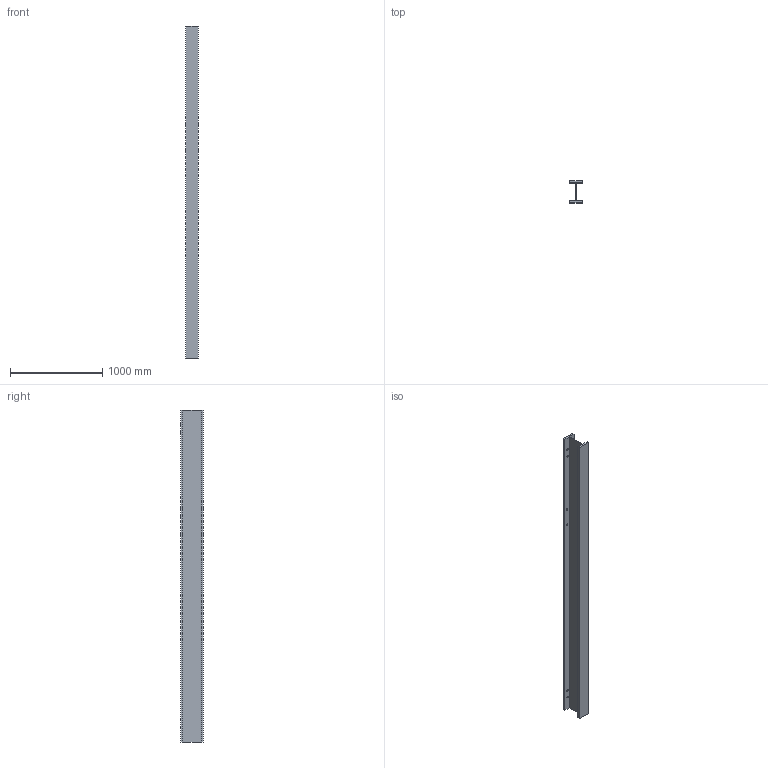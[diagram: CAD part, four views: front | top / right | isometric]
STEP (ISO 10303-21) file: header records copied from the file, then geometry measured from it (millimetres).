
FILE_DESCRIPTION(('Open CASCADE Model'),'2;1');
FILE_NAME('Open CASCADE Shape Model','2026-10-19T10:09:19',('Author'),( 'Open CASCADE'),'Open CASCADE STEP processor 8.0','Open CASCADE 8.0' ,'Unknown');
FILE_SCHEMA(('AUTOMOTIVE_DESIGN { 1 0 10303 214 1 1 1 1 }'));
Length unit declared in the file: millimetre
Products named in the file (1): I_A240x140x8x20_L3600000_P05 3
Bounding box: 140 x 240 x 3600 mm (x, y, z)
Volume: 25848874.3 mm3; surface area: 3708264.4 mm2
Topology: 1 solids, 1 shells, 26 faces, 72 edges, 48 vertices
Faces by surface type: plane 14, cylinder 12
Full cylindrical faces by diameter (mm): 18 x8, 22 x4
Entity records: 1870 total; most frequent: CARTESIAN_POINT 363, DIRECTION 282, LINE 168, VECTOR 168, ORIENTED_EDGE 144, PCURVE 144, DEFINITIONAL_REPRESENTATION 144, EDGE_CURVE 72
